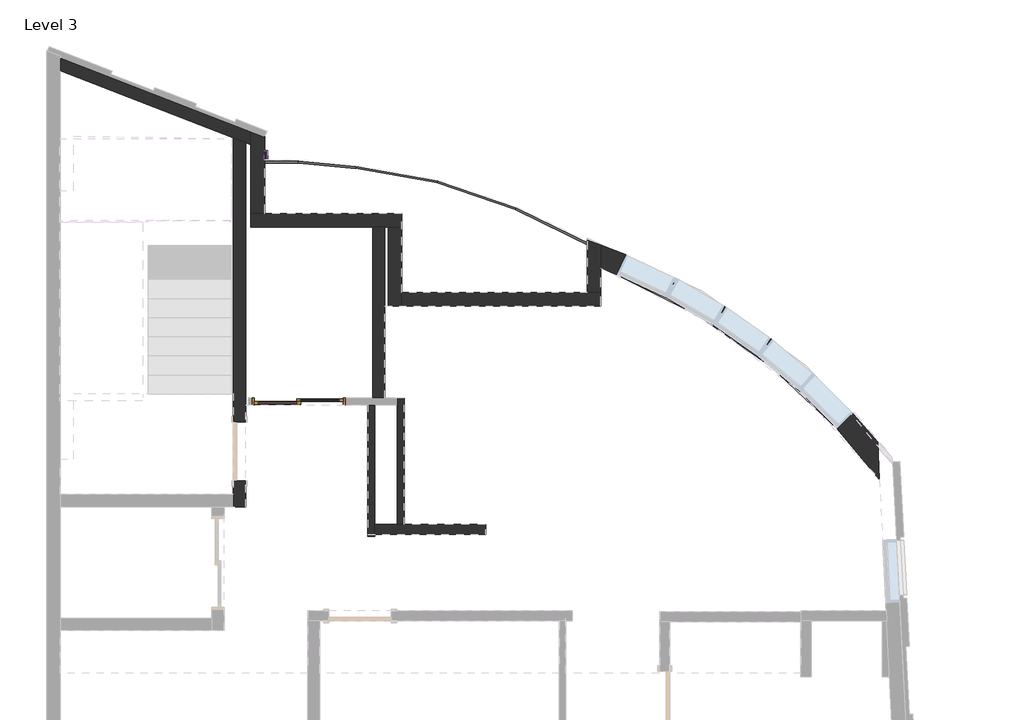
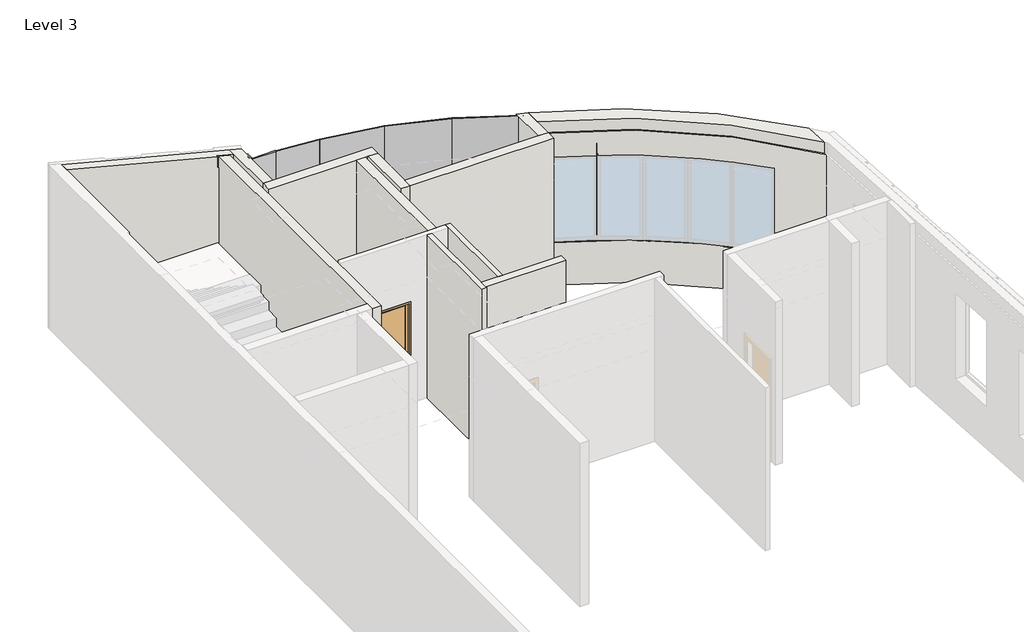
# One storey, part 4 of 5: 13 walls, 5 plates, 2 proxies, 1 door.
"""IFC4 building model written with IfcOpenShell, lengths in millimetres."""

from ifc_helpers import new_model, si_unit, frame, origin, place, context, project, spatial, polyline, circle_curve, outline, extrude, faceted_brep, transform, mapped, element, save
from ifc_brep_helpers import plane_surface, cylinder_surface, revolved_surface, advanced_brep
from components import sliding_door_2_panel_aus_ee5771a8, system_panel_glazed_224d79fb, system_panel_glazed_0fb09b64, system_panel_glazed_2140e779, system_panel_glazed_0c0ff7ba

model = new_model("IFC4")

# Units and contexts
model_context = context("Model", 3, world=origin())
ifc_project = project(units=[si_unit("LENGTHUNIT", "METRE", prefix="MILLI")], contexts=[model_context])

# Site, building, storey
site = spatial("IfcSite", under=ifc_project)
building = spatial("IfcBuilding", under=site)
storey = spatial("IfcBuildingStorey", under=building, Name="Level 3", Elevation=11500.0)

# Proxies
placement = place(None, origin())
element("IfcBuildingElementProxy", 1, Name="Reveal", ObjectType="Reveal", at=placement, inside=storey, context=model_context, shape_type="SweptSolid", body=[
    extrude(outline(polyline([(2938.093022, 13732.1068799), (2988.093022, 13732.1068799), (2988.093022, 13599.3570533), (2938.093022, 13599.3570533), (2938.093022, 13732.1068799)])), frame((0.0, 0.0, 14135.0), z_axis=(0.0, 0.0, 1.0), x_axis=(1.0, 0.0, 0.0)), (0.0, 0.0, 1.0), 50.0),
])
element("IfcBuildingElementProxy", 2, Name="Reveal", ObjectType="Reveal", at=placement, inside=storey, context=model_context, shape_type="SweptSolid", body=[
    extrude(outline(polyline([(2938.093022, 13732.1068799), (2988.093022, 13732.1068799), (2988.093022, 13599.3570533), (2938.093022, 13599.3570533), (2938.093022, 13732.1068799)])), frame((0.0, 0.0, 12375.0), z_axis=(0.0, 0.0, 1.0), x_axis=(1.0, 0.0, 0.0)), (0.0, 0.0, 1.0), 50.0),
])

# Door
sliding_door_2_panel_aus_shape = sliding_door_2_panel_aus_ee5771a8(model_context)
element("IfcDoor", 3, ObjectType="Sliding Door - 2 Panel (AUS) : elavator door", at=placement, inside=storey, context=model_context, shape_type="MappedRepresentation", body=[
    mapped(sliding_door_2_panel_aus_shape, transform((3525.434997, 10056.8748959, 11500.0), x_axis=(-1.0, 0.0, 0.0), y_axis=(0.0, -1.0, 0.0), z_axis=(0.0, 0.0, 1.0))),
])

# Plates
system_panel_glazed_shape = system_panel_glazed_224d79fb(model_context)
element("IfcPlate", 4, ObjectType="System Panel : Glazed", at=placement, inside=storey, context=model_context, shape_type="MappedRepresentation", body=[
    mapped(system_panel_glazed_shape, transform((6054.0124771, 13110.8072352, 11500.0), x_axis=(-0.9455185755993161, 0.32556815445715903, 0.0), y_axis=(-0.32556815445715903, -0.9455185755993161, 0.0), z_axis=(0.0, 0.0, 1.0))),
])
element("IfcPlate", 5, ObjectType="System Panel : Glazed", at=placement, inside=storey, context=model_context, shape_type="MappedRepresentation", body=[
    mapped(system_panel_glazed_shape, transform((4876.5134167, 13415.3291978, 11500.0), x_axis=(-0.9848077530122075, 0.17364817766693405, 0.0), y_axis=(-0.17364817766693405, -0.9848077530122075, 0.0), z_axis=(0.0, 0.0, 1.0))),
])
system_panel_glazed_2_shape = system_panel_glazed_0fb09b64(model_context)
element("IfcPlate", 6, ObjectType="System Panel : Glazed", at=placement, inside=storey, context=model_context, shape_type="MappedRepresentation", body=[
    mapped(system_panel_glazed_2_shape, transform((3856.9795559, 13560.3058198, 11500.0), x_axis=(-0.9956808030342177, 0.09284254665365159, 0.0), y_axis=(-0.09284254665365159, -0.9956808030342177, 0.0), z_axis=(0.0, 0.0, 1.0))),
])
system_panel_glazed_3_shape = system_panel_glazed_2140e779(model_context)
element("IfcPlate", 7, ObjectType="System Panel : Glazed", at=placement, inside=storey, context=model_context, shape_type="MappedRepresentation", body=[
    mapped(system_panel_glazed_3_shape, transform((3189.0685843, 13599.3570533, 11500.0), x_axis=(-1.0, 0.0, 0.0), y_axis=(0.0, -1.0, 0.0), z_axis=(0.0, 0.0, 1.0))),
])
system_panel_glazed_4_shape = system_panel_glazed_0c0ff7ba(model_context)
element("IfcPlate", 8, ObjectType="System Panel : Glazed", at=placement, inside=storey, context=model_context, shape_type="MappedRepresentation", body=[
    mapped(system_panel_glazed_4_shape, transform((7196.5430293, 12636.269013, 11500.0), x_axis=(-0.8987940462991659, 0.43837114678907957, 0.0), y_axis=(-0.43837114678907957, -0.8987940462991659, 0.0), z_axis=(0.0, 0.0, 1.0))),
])

# Walls
element("IfcWall", 9, ObjectType="Generic - 20cm-gypsum-kamposite", at=placement, inside=storey, context=model_context, shape_type="AdvancedBrep", body=[
    advanced_brep(
    [(11908.3121492, 9469.3435074, 15000.0), (7862.3072504, 12351.1222388, 15000.0), (7862.3072504, 12041.0727933, 15000.0), (11933.8152789, 8968.3078963, 15000.0), (7862.3072504, 12351.1222388, 11500.0), (11908.3121492, 9469.3435074, 11500.0), (11936.5482631, 8914.6155682, 11500.0), (7862.3072504, 12008.9189597, 11500.0), (11908.3121492, 9469.3435074, 14245.0), (11544.8906493, 9885.6032931, 14245.0), (11544.8906493, 9885.6032931, 14230.0), (10356.3701317, 10970.353241, 14230.0), (10356.3701317, 10970.353241, 14245.0), (10349.7211648, 10975.4604273, 14245.0), (10349.7211648, 10975.4604273, 14230.0), (9682.5839736, 11443.5981936, 14230.0), (9682.5839736, 11443.5981936, 14245.0), (9675.5092952, 11448.1203824, 14245.0), (9675.5092952, 11448.1203824, 14230.0), (8970.5270255, 11857.0519163, 14230.0), (8970.5270255, 11857.0519163, 14245.0), (8958.907306, 11863.1346618, 14245.0), (8958.907306, 11863.1346618, 14230.0), (8221.1493402, 12209.4555878, 14230.0), (8221.1493402, 12209.4555878, 14245.0), (7862.3072504, 12351.1222388, 14245.0), (7862.3072504, 12351.1222388, 12375.0), (11908.3121492, 9469.3435074, 12375.0), (11908.3121492, 9469.3435074, 12425.0), (11544.8906493, 9885.6032931, 12425.0), (11544.8906493, 9885.6032931, 14195.0), (11908.3121492, 9469.3435074, 14195.0), (8221.1493402, 12209.4555878, 12425.0), (7862.3072504, 12351.1222388, 12425.0), (7862.3072504, 12351.1222388, 14195.0), (8221.1493402, 12209.4555878, 14195.0), (10356.3701317, 10970.353241, 12425.0), (10349.7211648, 10975.4604273, 12425.0), (10349.7211648, 10975.4604273, 14195.0), (10356.3701317, 10970.353241, 14195.0), (9682.5839736, 11443.5981936, 12425.0), (9675.5092952, 11448.1203824, 12425.0), (9675.5092952, 11448.1203824, 14195.0), (9682.5839736, 11443.5981936, 14195.0), (8970.5270255, 11857.0519163, 12425.0), (8958.907306, 11863.1346618, 12425.0), (8958.907306, 11863.1346618, 14195.0), (8970.5270255, 11857.0519163, 14195.0), (11936.5482631, 8914.6155682, 14759.0), (7862.3072504, 12008.9189597, 14759.0), (8085.0423074, 11919.5105106, 12400.0), (8085.0423074, 11919.5105106, 14230.0), (11319.3000133, 9658.2222537, 14230.0), (11319.3000133, 9658.2222537, 12400.0), (11910.4512496, 9427.3186475, 12375.0), (11910.4512496, 9427.3186475, 12425.0), (11910.4512496, 9427.3186475, 14195.0), (11910.4512496, 9427.3186475, 14245.0), (11933.8152789, 8968.3078963, 14759.0), (11527.266896, 9867.8396686, 14230.0), (11527.266896, 9867.8396686, 14195.0), (11527.266896, 9867.8396686, 12425.0), (11527.266896, 9867.8396686, 12400.0), (10335.3479854, 10954.9773917, 14230.0), (10293.8645813, 10895.8599189, 14230.0), (10340.2860207, 10951.1844014, 14230.0), (8210.516289, 12186.8042907, 14230.0), (8948.2742549, 11840.4833647, 14230.0), (8894.6346191, 11726.2163204, 14230.0), (8957.9716481, 11835.4069275, 14230.0), (9662.9539178, 11426.4753937, 14230.0), (9626.6451976, 11363.8805536, 14230.0), (9668.2107942, 11423.1151579, 14230.0), (10293.8645813, 10895.8599189, 12400.0), (10340.2860207, 10951.1844014, 12400.0), (10340.2860207, 10951.1844014, 12425.0), (10340.2860207, 10951.1844014, 14195.0), (10335.3479854, 10954.9773917, 12400.0), (9668.2107942, 11423.1151579, 12400.0), (9626.6451976, 11363.8805536, 12400.0), (9662.9539178, 11426.4753937, 12400.0), (8957.9716481, 11835.4069275, 12400.0), (8894.6346191, 11726.2163204, 12400.0), (8948.2742549, 11840.4833647, 12400.0), (8210.516289, 12186.8042907, 12400.0), (10335.3479854, 10954.9773917, 14195.0), (10335.3479854, 10954.9773917, 12425.0), (9668.2107942, 11423.1151579, 12425.0), (9668.2107942, 11423.1151579, 14195.0), (9662.9539178, 11426.4753937, 14195.0), (9662.9539178, 11426.4753937, 12425.0), (8957.9716481, 11835.4069275, 12425.0), (8957.9716481, 11835.4069275, 14195.0), (8948.2742549, 11840.4833647, 14195.0), (8948.2742549, 11840.4833647, 12425.0), (8210.516289, 12186.8042907, 12425.0), (8210.516289, 12186.8042907, 14195.0), (7862.3072504, 12041.0727933, 14759.0), (7862.3072504, 12324.4469309, 14245.0), (7862.3072504, 12324.4469309, 14195.0), (7862.3072504, 12324.4469309, 12425.0), (7862.3072504, 12324.4469309, 12375.0), (11527.266896, 9867.8396686, 14245.0), (8210.516289, 12186.8042907, 14245.0), (8957.9716481, 11835.4069275, 14245.0), (8948.2742549, 11840.4833647, 14245.0), (9668.2107942, 11423.1151579, 14245.0), (9662.9539178, 11426.4753937, 14245.0), (10340.2860207, 10951.1844014, 14245.0), (10335.3479854, 10954.9773917, 14245.0)],
    [
        (0, 1, circle_curve(frame((4535.6080259, 3399.2748166, 15000.0), z_axis=(0.0, 0.0, 1.0), x_axis=(0.7954529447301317, 0.6060153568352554, 0.0)), 9550.0)),
        (1, 2),
        (2, 3, circle_curve(frame((4535.6080259, 3399.2748166, 15000.0), z_axis=(0.0, 0.0, -1.0), x_axis=(1.0, 0.0, 0.0)), 9260.0)),
        (3, 0),
        (4, 5, circle_curve(frame((4535.6080259, 3399.2748166, 11500.0), z_axis=(0.0, 0.0, -1.0), x_axis=(0.7954529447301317, 0.6060153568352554, 0.0)), 9550.0)),
        (5, 6),
        (6, 7, circle_curve(frame((4535.6080259, 3399.2748166, 11500.0), z_axis=(0.0, 0.0, 1.0), x_axis=(0.7954529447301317, 0.6060153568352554, 0.0)), 9230.0)),
        (7, 4),
        (0, 8),
        (8, 9, circle_curve(frame((4535.6080259, 3399.2748166, 14245.0), z_axis=(0.0, 0.0, 1.0), x_axis=(0.7954529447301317, 0.6060153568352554, 0.0)), 9550.0)),
        (9, 10),
        (10, 11, circle_curve(frame((4535.6080259, 3399.2748166, 14230.0), z_axis=(0.0, 0.0, 1.0), x_axis=(0.7954529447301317, 0.6060153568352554, 0.0)), 9550.0)),
        (11, 12),
        (12, 13, circle_curve(frame((4535.6080259, 3399.2748166, 14245.0), z_axis=(0.0, 0.0, 1.0), x_axis=(0.7954529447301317, 0.6060153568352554, 0.0)), 9550.0)),
        (13, 14),
        (14, 15, circle_curve(frame((4535.6080259, 3399.2748166, 14230.0), z_axis=(0.0, 0.0, 1.0), x_axis=(0.7954529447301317, 0.6060153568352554, 0.0)), 9550.0)),
        (15, 16),
        (16, 17, circle_curve(frame((4535.6080259, 3399.2748166, 14245.0), z_axis=(0.0, 0.0, 1.0), x_axis=(0.7954529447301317, 0.6060153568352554, 0.0)), 9550.0)),
        (17, 18),
        (18, 19, circle_curve(frame((4535.6080259, 3399.2748166, 14230.0), z_axis=(0.0, 0.0, 1.0), x_axis=(0.7954529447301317, 0.6060153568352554, 0.0)), 9550.0)),
        (19, 20),
        (20, 21, circle_curve(frame((4535.6080259, 3399.2748166, 14245.0), z_axis=(0.0, 0.0, 1.0), x_axis=(0.7954529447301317, 0.6060153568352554, 0.0)), 9550.0)),
        (21, 22),
        (22, 23, circle_curve(frame((4535.6080259, 3399.2748166, 14230.0), z_axis=(0.0, 0.0, 1.0), x_axis=(0.7954529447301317, 0.6060153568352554, 0.0)), 9550.0)),
        (23, 24),
        (24, 25, circle_curve(frame((4535.6080259, 3399.2748166, 14245.0), z_axis=(0.0, 0.0, 1.0), x_axis=(0.7954529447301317, 0.6060153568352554, 0.0)), 9550.0)),
        (25, 1),
        (4, 26),
        (26, 27, circle_curve(frame((4535.6080259, 3399.2748166, 12375.0), z_axis=(0.0, 0.0, -1.0), x_axis=(0.7954529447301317, 0.6060153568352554, 0.0)), 9550.0)),
        (27, 5),
        (28, 29, circle_curve(frame((4535.6080259, 3399.2748166, 12425.0), z_axis=(0.0, 0.0, 1.0), x_axis=(0.7954529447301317, 0.6060153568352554, 0.0)), 9550.0)),
        (29, 30),
        (30, 31, circle_curve(frame((4535.6080259, 3399.2748166, 14195.0), z_axis=(0.0, 0.0, -1.0), x_axis=(0.7954529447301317, 0.6060153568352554, 0.0)), 9550.0)),
        (31, 28),
        (32, 33, circle_curve(frame((4535.6080259, 3399.2748166, 12425.0), z_axis=(0.0, 0.0, 1.0), x_axis=(0.7954529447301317, 0.6060153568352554, 0.0)), 9550.0)),
        (33, 34),
        (34, 35, circle_curve(frame((4535.6080259, 3399.2748166, 14195.0), z_axis=(0.0, 0.0, -1.0), x_axis=(0.7954529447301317, 0.6060153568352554, 0.0)), 9550.0)),
        (35, 32),
        (36, 37, circle_curve(frame((4535.6080259, 3399.2748166, 12425.0), z_axis=(0.0, 0.0, 1.0), x_axis=(0.7954529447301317, 0.6060153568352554, 0.0)), 9550.0)),
        (37, 38),
        (38, 39, circle_curve(frame((4535.6080259, 3399.2748166, 14195.0), z_axis=(0.0, 0.0, -1.0), x_axis=(0.7954529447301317, 0.6060153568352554, 0.0)), 9550.0)),
        (39, 36),
        (40, 41, circle_curve(frame((4535.6080259, 3399.2748166, 12425.0), z_axis=(0.0, 0.0, 1.0), x_axis=(0.7954529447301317, 0.6060153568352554, 0.0)), 9550.0)),
        (41, 42),
        (42, 43, circle_curve(frame((4535.6080259, 3399.2748166, 14195.0), z_axis=(0.0, 0.0, -1.0), x_axis=(0.7954529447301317, 0.6060153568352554, 0.0)), 9550.0)),
        (43, 40),
        (44, 45, circle_curve(frame((4535.6080259, 3399.2748166, 12425.0), z_axis=(0.0, 0.0, 1.0), x_axis=(0.7954529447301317, 0.6060153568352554, 0.0)), 9550.0)),
        (45, 46),
        (46, 47, circle_curve(frame((4535.6080259, 3399.2748166, 14195.0), z_axis=(0.0, 0.0, -1.0), x_axis=(0.7954529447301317, 0.6060153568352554, 0.0)), 9550.0)),
        (47, 44),
        (6, 48),
        (48, 49, circle_curve(frame((4535.6080259, 3399.2748166, 14759.0), z_axis=(0.0, 0.0, 1.0), x_axis=(0.7954529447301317, 0.6060153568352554, 0.0)), 9230.0)),
        (49, 7),
        (50, 51),
        (51, 52, circle_curve(frame((4535.6080259, 3399.2748166, 14230.0), z_axis=(0.0, 0.0, -1.0), x_axis=(0.7954529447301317, 0.6060153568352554, 0.0)), 9230.0)),
        (52, 53),
        (53, 50, circle_curve(frame((4535.6080259, 3399.2748166, 12400.0), z_axis=(0.0, 0.0, 1.0), x_axis=(0.7954529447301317, 0.6060153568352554, 0.0)), 9230.0)),
        (27, 54),
        (54, 55),
        (55, 28),
        (31, 56),
        (56, 57),
        (57, 8),
        (3, 58),
        (58, 48),
        (52, 59),
        (59, 60),
        (60, 30),
        (29, 61),
        (61, 62),
        (62, 53),
        (14, 63),
        (63, 64),
        (64, 65),
        (65, 11),
        (10, 59),
        (51, 66),
        (66, 23),
        (22, 67),
        (67, 68),
        (68, 69),
        (69, 19),
        (18, 70),
        (70, 71),
        (71, 72),
        (72, 15),
        (64, 73),
        (73, 74),
        (74, 75),
        (75, 36),
        (39, 76),
        (76, 65),
        (62, 74, circle_curve(frame((4535.6080259, 3399.2748166, 12400.0), z_axis=(0.0, 0.0, 1.0), x_axis=(0.32740306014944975, 0.9448847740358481, 0.0)), 9525.0)),
        (73, 77),
        (77, 78, circle_curve(frame((4535.6080259, 3399.2748166, 12400.0), z_axis=(0.0, 0.0, 1.0), x_axis=(0.32740306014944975, 0.9448847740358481, 0.0)), 9525.0)),
        (78, 79),
        (79, 80),
        (80, 81, circle_curve(frame((4535.6080259, 3399.2748166, 12400.0), z_axis=(0.0, 0.0, 1.0), x_axis=(0.32740306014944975, 0.9448847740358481, 0.0)), 9525.0)),
        (81, 82),
        (82, 83),
        (83, 84, circle_curve(frame((4535.6080259, 3399.2748166, 12400.0), z_axis=(0.0, 0.0, 1.0), x_axis=(0.32740306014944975, 0.9448847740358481, 0.0)), 9525.0)),
        (84, 50),
        (63, 85),
        (85, 38),
        (37, 86),
        (86, 77),
        (71, 79),
        (78, 87),
        (87, 40),
        (43, 88),
        (88, 72),
        (70, 89),
        (89, 42),
        (41, 90),
        (90, 80),
        (68, 82),
        (81, 91),
        (91, 44),
        (47, 92),
        (92, 69),
        (67, 93),
        (93, 46),
        (45, 94),
        (94, 83),
        (84, 95),
        (95, 32),
        (35, 96),
        (96, 66),
        (49, 97),
        (97, 2),
        (25, 98),
        (98, 99),
        (99, 34),
        (33, 100),
        (100, 101),
        (101, 26),
        (55, 61, circle_curve(frame((4535.6080259, 3399.2748166, 12425.0), z_axis=(0.0, 0.0, 1.0), x_axis=(0.32740306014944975, 0.9448847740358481, 0.0)), 9525.0)),
        (95, 100, circle_curve(frame((4535.6080259, 3399.2748166, 12425.0), z_axis=(0.0, 0.0, 1.0), x_axis=(0.32740306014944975, 0.9448847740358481, 0.0)), 9525.0)),
        (75, 86, circle_curve(frame((4535.6080259, 3399.2748166, 12425.0), z_axis=(0.0, 0.0, 1.0), x_axis=(0.32740306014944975, 0.9448847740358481, 0.0)), 9525.0)),
        (87, 90, circle_curve(frame((4535.6080259, 3399.2748166, 12425.0), z_axis=(0.0, 0.0, 1.0), x_axis=(0.32740306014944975, 0.9448847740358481, 0.0)), 9525.0)),
        (91, 94, circle_curve(frame((4535.6080259, 3399.2748166, 12425.0), z_axis=(0.0, 0.0, 1.0), x_axis=(0.32740306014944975, 0.9448847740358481, 0.0)), 9525.0)),
        (101, 54, circle_curve(frame((4535.6080259, 3399.2748166, 12375.0), z_axis=(0.0, 0.0, -1.0), x_axis=(0.32740306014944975, 0.9448847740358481, 0.0)), 9525.0)),
        (57, 102, circle_curve(frame((4535.6080259, 3399.2748166, 14245.0), z_axis=(0.0, 0.0, 1.0), x_axis=(0.7339562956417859, 0.6791966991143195, 0.0)), 9525.0)),
        (102, 9),
        (60, 56, circle_curve(frame((4535.6080259, 3399.2748166, 14195.0), z_axis=(0.0, 0.0, -1.0), x_axis=(0.7339562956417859, 0.6791966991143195, 0.0)), 9525.0)),
        (59, 102),
        (24, 103),
        (103, 98, circle_curve(frame((4535.6080259, 3399.2748166, 14245.0), z_axis=(0.0, 0.0, 1.0), x_axis=(0.32740306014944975, 0.9448847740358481, 0.0)), 9525.0)),
        (99, 96, circle_curve(frame((4535.6080259, 3399.2748166, 14195.0), z_axis=(0.0, 0.0, -1.0), x_axis=(0.32740306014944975, 0.9448847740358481, 0.0)), 9525.0)),
        (103, 66),
        (104, 105, circle_curve(frame((4535.6080259, 3399.2748166, 14245.0), z_axis=(0.0, 0.0, 1.0), x_axis=(0.4631726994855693, 0.8862680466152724, 0.0)), 9525.0)),
        (105, 21),
        (20, 104),
        (93, 92, circle_curve(frame((4535.6080259, 3399.2748166, 14195.0), z_axis=(0.0, 0.0, -1.0), x_axis=(0.4631726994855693, 0.8862680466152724, 0.0)), 9525.0)),
        (104, 69),
        (67, 105),
        (106, 107, circle_curve(frame((4535.6080259, 3399.2748166, 14245.0), z_axis=(0.0, 0.0, 1.0), x_axis=(0.5382095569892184, 0.8428110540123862, 0.0)), 9525.0)),
        (107, 17),
        (16, 106),
        (89, 88, circle_curve(frame((4535.6080259, 3399.2748166, 14195.0), z_axis=(0.0, 0.0, -1.0), x_axis=(0.5382095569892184, 0.8428110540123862, 0.0)), 9525.0)),
        (106, 72),
        (70, 107),
        (108, 109, circle_curve(frame((4535.6080259, 3399.2748166, 14245.0), z_axis=(0.0, 0.0, 1.0), x_axis=(0.6088076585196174, 0.7933178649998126, 0.0)), 9525.0)),
        (109, 13),
        (12, 108),
        (85, 76, circle_curve(frame((4535.6080259, 3399.2748166, 14195.0), z_axis=(0.0, 0.0, -1.0), x_axis=(0.6088076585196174, 0.7933178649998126, 0.0)), 9525.0)),
        (108, 65),
        (63, 109),
        (58, 97, circle_curve(frame((4535.6080259, 3399.2748166, 14759.0), z_axis=(0.0, 0.0, 1.0), x_axis=(1.0, 0.0, 0.0)), 9260.0)),
    ],
    [
        plane_surface(frame((12132.1836481, 9186.7214744, 15000.0), z_axis=(0.0, 0.0, 1.0), x_axis=(-0.6060153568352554, 0.7954529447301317, 0.0))),
        plane_surface(frame((12132.1836481, 9186.7214744, 11500.0), z_axis=(0.0, 0.0, -1.0), x_axis=(0.6060153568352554, -0.7954529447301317, 0.0))),
        cylinder_surface(frame((4535.6080259, 3399.2748166, 11500.0), z_axis=(0.0, 0.0, 1.0), x_axis=(0.7954529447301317, 0.6060153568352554, 0.0)), 9550.0),
        revolved_surface(polyline([(11877.638705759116, 8992.796560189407, 11500.0), (11877.638705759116, 8992.796560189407, 14759.0)]), (4535.6080259, 3399.2748166, 11500.0), (0.0, 0.0, -1.0)),
        plane_surface(frame((11929.5360205, 9052.3783941, 11500.0), z_axis=(0.9987070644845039, 0.05083502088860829, 0.0), x_axis=(0.05083502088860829, -0.9987070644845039, 0.0))),
        plane_surface(frame((10471.5277129, 8803.721596, 12400.0), z_axis=(-0.7098961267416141, 0.7043063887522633, 0.0), x_axis=(0.7043063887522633, 0.7098961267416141, 0.0))),
        plane_surface(frame((10001.1116007, 9279.0246578, 14230.0), z_axis=(0.0, 0.0, -1.0), x_axis=(0.6427769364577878, 0.7660533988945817, 0.0))),
        plane_surface(frame((9376.7780806, 9802.887861, 14230.0), z_axis=(0.7660533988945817, -0.6427769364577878, 0.0), x_axis=(0.6427769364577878, 0.7660533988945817, 0.0))),
        plane_surface(frame((9376.7780806, 9802.887861, 12400.0), z_axis=(0.0, 0.0, 1.0), x_axis=(0.6427769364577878, 0.7660533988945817, 0.0))),
        plane_surface(frame((9474.332262, 9727.9548086, 12400.0), z_axis=(-0.8185732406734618, 0.5744021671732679, 0.0), x_axis=(0.5744021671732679, 0.8185732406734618, 0.0))),
        plane_surface(frame((8807.1950709, 10196.0925748, 14230.0), z_axis=(0.8185732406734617, -0.574402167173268, 0.0), x_axis=(0.574402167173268, 0.8185732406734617, 0.0))),
        plane_surface(frame((8910.8324147, 10129.8467885, 12400.0), z_axis=(-0.8650089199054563, 0.5017564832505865, 0.0), x_axis=(0.5017564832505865, 0.8650089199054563, 0.0))),
        plane_surface(frame((8205.850145, 10538.7783223, 14230.0), z_axis=(0.8650089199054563, -0.5017564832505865, 0.0), x_axis=(0.5017564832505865, 0.8650089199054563, 0.0))),
        plane_surface(frame((8311.308421, 10483.5725268, 12400.0), z_axis=(-0.9052244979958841, 0.42493365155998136, 0.0), x_axis=(0.42493365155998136, 0.9052244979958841, 0.0))),
        plane_surface(frame((7573.5504552, 10829.8934528, 14230.0), z_axis=(0.9052244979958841, -0.42493365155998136, 0.0), x_axis=(0.42493365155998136, 0.9052244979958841, 0.0))),
        plane_surface(frame((7862.3072504, 12316.4556234, 11500.0), z_axis=(-1.0, 0.0, 0.0), x_axis=(0.0, 1.0, 0.0))),
        plane_surface(frame((4535.6080259, 3399.2748166, 12425.0), z_axis=(0.0, 0.0, -1.0), x_axis=(0.32740306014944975, 0.9448847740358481, 0.0))),
        plane_surface(frame((4535.6080259, 3399.2748166, 12375.0), z_axis=(0.0, 0.0, 1.0), x_axis=(0.32740306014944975, 0.9448847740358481, 0.0))),
        cylinder_surface(frame((4535.6080259, 3399.2748166, 12400.0), z_axis=(0.0, 0.0, -1.0), x_axis=(0.32740306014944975, 0.9448847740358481, 0.0)), 9525.0),
        plane_surface(frame((4535.6080259, 3399.2748166, 14245.0), z_axis=(0.0, 0.0, -1.0), x_axis=(0.7339562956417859, 0.6791966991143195, 0.0))),
        plane_surface(frame((4535.6080259, 3399.2748166, 14195.0), z_axis=(0.0, 0.0, 1.0), x_axis=(0.7339562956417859, 0.6791966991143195, 0.0))),
        cylinder_surface(frame((4535.6080259, 3399.2748166, 14220.0), z_axis=(0.0, 0.0, -1.0), x_axis=(0.7339562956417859, 0.6791966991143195, 0.0)), 9525.0),
        plane_surface(frame((4535.6080259, 3399.2748166, 14245.0), z_axis=(0.0, 0.0, -1.0), x_axis=(0.32740306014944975, 0.9448847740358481, 0.0))),
        plane_surface(frame((4535.6080259, 3399.2748166, 14195.0), z_axis=(0.0, 0.0, 1.0), x_axis=(0.32740306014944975, 0.9448847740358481, 0.0))),
        cylinder_surface(frame((4535.6080259, 3399.2748166, 14220.0), z_axis=(0.0, 0.0, -1.0), x_axis=(0.32740306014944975, 0.9448847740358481, 0.0)), 9525.0),
        plane_surface(frame((7573.5504552, 10829.8934528, 14230.0), z_axis=(-0.9052244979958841, 0.42493365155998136, 0.0), x_axis=(0.42493365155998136, 0.9052244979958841, 0.0))),
        plane_surface(frame((4535.6080259, 3399.2748166, 14245.0), z_axis=(0.0, 0.0, -1.0), x_axis=(0.4631726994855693, 0.8862680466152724, 0.0))),
        plane_surface(frame((4535.6080259, 3399.2748166, 14195.0), z_axis=(0.0, 0.0, 1.0), x_axis=(0.4631726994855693, 0.8862680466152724, 0.0))),
        cylinder_surface(frame((4535.6080259, 3399.2748166, 14220.0), z_axis=(0.0, 0.0, -1.0), x_axis=(0.4631726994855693, 0.8862680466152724, 0.0)), 9525.0),
        plane_surface(frame((8311.308421, 10483.5725268, 12400.0), z_axis=(0.9052244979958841, -0.42493365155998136, 0.0), x_axis=(0.42493365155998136, 0.9052244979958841, 0.0))),
        plane_surface(frame((8205.850145, 10538.7783223, 14230.0), z_axis=(-0.8650089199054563, 0.5017564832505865, 0.0), x_axis=(0.5017564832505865, 0.8650089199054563, 0.0))),
        plane_surface(frame((4535.6080259, 3399.2748166, 14245.0), z_axis=(0.0, 0.0, -1.0), x_axis=(0.5382095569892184, 0.8428110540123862, 0.0))),
        plane_surface(frame((4535.6080259, 3399.2748166, 14195.0), z_axis=(0.0, 0.0, 1.0), x_axis=(0.5382095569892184, 0.8428110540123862, 0.0))),
        cylinder_surface(frame((4535.6080259, 3399.2748166, 14220.0), z_axis=(0.0, 0.0, -1.0), x_axis=(0.5382095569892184, 0.8428110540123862, 0.0)), 9525.0),
        plane_surface(frame((8910.8324147, 10129.8467885, 12400.0), z_axis=(0.8650089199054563, -0.5017564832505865, 0.0), x_axis=(0.5017564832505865, 0.8650089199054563, 0.0))),
        plane_surface(frame((8807.1950709, 10196.0925748, 14230.0), z_axis=(-0.8185732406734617, 0.574402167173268, 0.0), x_axis=(0.574402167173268, 0.8185732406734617, 0.0))),
        plane_surface(frame((4535.6080259, 3399.2748166, 14245.0), z_axis=(0.0, 0.0, -1.0), x_axis=(0.6088076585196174, 0.7933178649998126, 0.0))),
        plane_surface(frame((4535.6080259, 3399.2748166, 14195.0), z_axis=(0.0, 0.0, 1.0), x_axis=(0.6088076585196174, 0.7933178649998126, 0.0))),
        cylinder_surface(frame((4535.6080259, 3399.2748166, 14220.0), z_axis=(0.0, 0.0, -1.0), x_axis=(0.6088076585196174, 0.7933178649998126, 0.0)), 9525.0),
        plane_surface(frame((9474.332262, 9727.9548086, 12400.0), z_axis=(0.8185732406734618, -0.5744021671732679, 0.0), x_axis=(0.5744021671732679, 0.8185732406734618, 0.0))),
        plane_surface(frame((9376.7780806, 9802.887861, 14230.0), z_axis=(-0.7660533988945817, 0.6427769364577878, 0.0), x_axis=(0.6427769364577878, 0.7660533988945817, 0.0))),
        plane_surface(frame((10471.5277129, 8803.721596, 12400.0), z_axis=(0.7098961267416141, -0.7043063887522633, 0.0), x_axis=(0.7043063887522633, 0.7098961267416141, 0.0))),
        plane_surface(frame((-80.0421304, 14944.8648867, 14759.0), z_axis=(0.0, 0.0, 1.0), x_axis=(0.9323005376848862, -0.36168454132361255, 0.0))),
        revolved_surface(polyline([(13795.608025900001, 3399.2748166, 14759.0), (13795.608025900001, 3399.2748166, 15000.0)]), (4535.6080259, 3399.2748166, 15000.0), (0.0, 0.0, -1.0)),
    ],
    [
        (0, [[1, 2, 3, 4]]),
        (1, [[5, 6, 7, 8]]),
        (2, [[-1, 9, 10, 11, 12, 13, 14, 15, 16, 17, 18, 19, 20, 21, 22, 23, 24, 25, 26, 27]]),
        (2, [[-5, 28, 29, 30]]),
        (2, [[31, 32, 33, 34]]),
        (2, [[35, 36, 37, 38]]),
        (2, [[39, 40, 41, 42]]),
        (2, [[43, 44, 45, 46]]),
        (2, [[47, 48, 49, 50]]),
        (3, [[-7, 51, 52, 53], [54, 55, 56, 57]]),
        (4, [[-6, -30, 58, 59, 60, -34, 61, 62, 63, -9, -4, 64, 65, -51]]),
        (5, [[-56, 66, 67, 68, -32, 69, 70, 71]]),
        (6, [[-16, 72, 73, 74, 75, -12, 76, -66, -55, 77, 78, -24, 79, 80, 81, 82, -20, 83, 84, 85, 86]]),
        (7, [[87, 88, 89, 90, -42, 91, 92, -74]]),
        (8, [[-57, -71, 93, -88, 94, 95, 96, 97, 98, 99, 100, 101, 102]]),
        (9, [[-87, -73, 103, 104, -40, 105, 106, -94]]),
        (10, [[107, -96, 108, 109, -46, 110, 111, -85]]),
        (11, [[-107, -84, 112, 113, -44, 114, 115, -97]]),
        (12, [[116, -99, 117, 118, -50, 119, 120, -81]]),
        (13, [[-116, -80, 121, 122, -48, 123, 124, -100]]),
        (14, [[-54, -102, 125, 126, -38, 127, 128, -77]]),
        (15, [[-8, -53, 129, 130, -2, -27, 131, 132, 133, -36, 134, 135, 136, -28]]),
        (16, [[137, -69, -31, -60]]),
        (16, [[-134, -35, -126, 138]]),
        (16, [[139, -105, -39, -90]]),
        (16, [[140, -114, -43, -109]]),
        (16, [[141, -123, -47, -118]]),
        (17, [[142, -58, -29, -136]]),
        (18, [[-137, -59, -142, -135, -138, -125, -101, -124, -141, -117, -98, -115, -140, -108, -95, -106, -139, -89, -93, -70]]),
        (19, [[143, 144, -10, -63]]),
        (20, [[145, -61, -33, -68]]),
        (21, [[-143, -62, -145, -67, 146]]),
        (22, [[147, 148, -131, -26]]),
        (23, [[149, -127, -37, -133]]),
        (24, [[150, -128, -149, -132, -148]]),
        (25, [[-150, -147, -25, -78]]),
        (26, [[151, 152, -22, 153]]),
        (27, [[154, -119, -49, -122]]),
        (28, [[-151, 155, -120, -154, -121, 156]]),
        (29, [[-156, -79, -23, -152]]),
        (30, [[-155, -153, -21, -82]]),
        (31, [[157, 158, -18, 159]]),
        (32, [[160, -110, -45, -113]]),
        (33, [[-157, 161, -111, -160, -112, 162]]),
        (34, [[-162, -83, -19, -158]]),
        (35, [[-161, -159, -17, -86]]),
        (36, [[163, 164, -14, 165]]),
        (37, [[166, -91, -41, -104]]),
        (38, [[-163, 167, -92, -166, -103, 168]]),
        (39, [[-168, -72, -15, -164]]),
        (40, [[-167, -165, -13, -75]]),
        (41, [[-146, -76, -11, -144]]),
        (42, [[169, -129, -52, -65]]),
        (43, [[-169, -64, -3, -130]]),
    ],
),
])
element("IfcWall", 10, ObjectType="Generic - 15cm-gypsu-2boith", at=placement, inside=storey, context=model_context, shape_type="Brep", body=[
    faceted_brep([(4549.2779066, 8112.262158, 11500.0), (6174.9402277, 8112.262158, 11500.0), (6174.9402277, 8112.262158, 15000.0), (4549.2779066, 8112.262158, 15000.0), (4549.2779066, 8262.262158, 11500.0), (4549.2779066, 8262.262158, 15000.0), (4879.9402277, 8262.262158, 15000.0), (4979.9402277, 8262.262158, 15000.0), (6174.9402277, 8262.262158, 15000.0), (6174.9402277, 8262.262158, 11500.0), (4979.9402277, 8262.262158, 11500.0), (4879.9402277, 8262.262158, 11500.0)], [[[0, 1, 2, 3]], [[4, 5, 6, 7, 8, 9, 10, 11]], [[1, 0, 4, 11, 10, 9]], [[2, 1, 9, 8]], [[3, 2, 8, 7, 6, 5]], [[0, 3, 5, 4]]]),
])
element("IfcWall", 11, ObjectType="Generic - 10cm-gypsu-2boith", at=placement, inside=storey, context=model_context, shape_type="Brep", body=[
    faceted_brep([(4549.2779066, 8082.262158, 11500.0), (4549.2779066, 8112.262158, 11500.0), (4549.2779066, 8262.262158, 11500.0), (4549.2779066, 10006.8748959, 11500.0), (4549.2779066, 10006.8748959, 15000.0), (4549.2779066, 8262.262158, 15000.0), (4549.2779066, 8112.262158, 15000.0), (4549.2779066, 8082.262158, 15000.0), (4449.2779066, 8082.262158, 11500.0), (4449.2779066, 8082.262158, 15000.0), (4449.2779066, 10006.8748959, 15000.0), (4449.2779066, 10006.8748959, 11500.0)], [[[0, 1, 2, 3, 4, 5, 6, 7]], [[8, 9, 10, 11]], [[3, 2, 1, 0, 8, 11]], [[7, 6, 5, 4, 10, 9]], [[0, 7, 9, 8]], [[4, 3, 11, 10]]]),
])
element("IfcWall", 12, ObjectType="Generic - 10cm-gypsu-2boith", at=placement, inside=storey, context=model_context, shape_type="Brep", body=[
    faceted_brep([(4879.9402277, 10106.8748959, 11500.0), (4879.9402277, 10006.8748959, 11500.0), (4879.9402277, 8262.262158, 11500.0), (4879.9402277, 8262.262158, 15000.0), (4879.9402277, 10006.8748959, 15000.0), (4879.9402277, 10106.8748959, 15000.0), (4979.9402277, 10106.8748959, 11500.0), (4979.9402277, 10106.8748959, 15000.0), (4979.9402277, 8262.262158, 15000.0), (4979.9402277, 8262.262158, 11500.0)], [[[0, 1, 2, 3, 4, 5]], [[6, 7, 8, 9]], [[2, 1, 0, 6, 9]], [[5, 4, 3, 8, 7]], [[3, 2, 9, 8]], [[0, 5, 7, 6]]]),
])
element("IfcWall", 13, ObjectType="Generic - 18cm-gypsu-2boith 2", at=placement, inside=storey, context=model_context, shape_type="Brep", body=[
    faceted_brep([(2661.8607589, 8516.8748746, 11500.0), (2661.8607589, 8896.8748746, 11500.0), (2661.8607589, 8896.8748746, 13532.0), (2661.8607589, 9760.8748746, 13532.0), (2661.8607589, 9760.8748746, 11500.0), (2661.8607589, 13848.9694672, 11500.0), (2661.8607589, 13848.9694672, 15000.0), (2661.8607589, 8516.8748746, 15000.0), (2481.8607589, 8896.8748746, 13532.0), (2481.8607589, 8896.8748746, 11500.0), (2481.8607589, 8696.8748746, 11500.0), (2481.8607589, 8516.8748746, 11500.0), (2481.8607589, 8516.8748746, 15000.0), (2481.8607589, 8696.8748746, 15000.0), (2481.8607589, 13918.8001868, 15000.0), (2481.8607589, 13918.8001868, 11500.0), (2481.8607589, 9760.8748746, 11500.0), (2481.8607589, 9760.8748746, 13532.0)], [[[0, 1, 2, 3, 4, 5, 6, 7]], [[8, 9, 10, 11, 12, 13, 14, 15, 16, 17]], [[16, 15, 5, 4]], [[11, 10, 9, 1, 0]], [[7, 6, 14, 13, 12]], [[6, 5, 15, 14]], [[0, 7, 12, 11]], [[2, 1, 9, 8]], [[3, 2, 8, 17]], [[4, 3, 17, 16]]]),
])
element("IfcWall", 14, ObjectType="Generic - 18cm-gypsu-2boith 2", at=placement, inside=storey, context=model_context, shape_type="SweptSolid", body=[
    extrude(outline(polyline([(4519.9587688, 10106.8748959), (4519.9587688, 12611.9409286), (4699.9587688, 12611.9409286), (4699.9587688, 10106.8748959), (4519.9587688, 10106.8748959)])), frame((0.0, 0.0, 11500.0), z_axis=(0.0, 0.0, 1.0), x_axis=(1.0, 0.0, 0.0)), (0.0, 0.0, 1.0), 3500.0),
])
element("IfcWall", 15, ObjectType="kamposite5cm", at=placement, inside=storey, context=model_context, shape_type="Brep", body=[
    faceted_brep([(2913.093022, 13751.504302, 11500.0), (2913.093022, 13599.3570533, 11500.0), (2913.093022, 13599.3570533, 15000.0), (2913.093022, 13751.504302, 15000.0), (2963.093022, 13599.3570533, 11500.0), (2963.093022, 13732.1068799, 11500.0), (2963.093022, 13732.1068799, 12375.0), (2963.093022, 13599.3570533, 12375.0), (2963.093022, 13732.1068799, 15000.0), (2963.093022, 13599.3570533, 15000.0), (2963.093022, 13599.3570533, 14185.0), (2963.093022, 13732.1068799, 14185.0), (2963.093022, 13732.1068799, 14135.0), (2963.093022, 13599.3570533, 14135.0), (2963.093022, 13599.3570533, 12425.0), (2963.093022, 13732.1068799, 12425.0), (2938.093022, 13599.3570533, 12375.0), (2938.093022, 13599.3570533, 12425.0), (2938.093022, 13599.3570533, 14135.0), (2938.093022, 13599.3570533, 14185.0), (2938.093022, 13732.1068799, 14185.0), (2938.093022, 13732.1068799, 14135.0), (2938.093022, 13732.1068799, 12425.0), (2938.093022, 13732.1068799, 12375.0)], [[[0, 1, 2, 3]], [[4, 5, 6, 7]], [[8, 9, 10, 11]], [[12, 13, 14, 15]], [[1, 0, 5, 4]], [[2, 1, 4, 7, 16, 17, 14, 13, 18, 19, 10, 9]], [[3, 2, 9, 8]], [[20, 21, 12, 11]], [[19, 20, 11, 10]], [[21, 18, 13, 12]], [[21, 20, 19, 18]], [[22, 23, 6, 15]], [[17, 22, 15, 14]], [[23, 16, 7, 6]], [[23, 22, 17, 16]], [[0, 3, 8, 11, 12, 15, 6, 5]]]),
])
element("IfcWall", 16, ObjectType="Generic - 20cm-gypsum", at=placement, inside=storey, context=model_context, shape_type="Brep", body=[
    faceted_brep([(4949.6116933, 11454.5991251, 11500.0), (7862.3072504, 11454.5991251, 11500.0), (7862.3072504, 11454.5991251, 15000.0), (4949.6116933, 11454.5991251, 15000.0), (4949.6116933, 11654.5991251, 11500.0), (4949.6116933, 11654.5991251, 15000.0), (7662.3072504, 11654.5991251, 15000.0), (7862.3072504, 11654.5991251, 15000.0), (7862.3072504, 11654.5991251, 11500.0), (7662.3072504, 11654.5991251, 11500.0)], [[[0, 1, 2, 3]], [[4, 5, 6, 7, 8, 9]], [[1, 0, 4, 9, 8]], [[3, 2, 7, 6, 5]], [[2, 1, 8, 7]], [[0, 3, 5, 4]]]),
])
element("IfcWall", 17, ObjectType="Generic - 20cm-gypsum", at=placement, inside=storey, context=model_context, shape_type="AdvancedBrep", body=[
    advanced_brep(
    [(7862.3072504, 11654.5991251, 11500.0), (7862.3072504, 12008.9189597, 11500.0), (7862.3072504, 12351.1222388, 11500.0), (7862.3072504, 12351.1222388, 12375.0), (7862.3072504, 12324.4469309, 12375.0), (7862.3072504, 12324.4469309, 12425.0), (7862.3072504, 12351.1222388, 12425.0), (7862.3072504, 12351.1222388, 14195.0), (7862.3072504, 12324.4469309, 14195.0), (7862.3072504, 12324.4469309, 14245.0), (7862.3072504, 12351.1222388, 14245.0), (7862.3072504, 12351.1222388, 15000.0), (7862.3072504, 12041.0727933, 15000.0), (7862.3072504, 11654.5991251, 15000.0), (7662.3072504, 12422.9244086, 11500.0), (7662.3072504, 11654.5991251, 11500.0), (7662.3072504, 11654.5991251, 15000.0), (7662.3072504, 12422.9244086, 15000.0), (7662.3072504, 12422.9244086, 14245.0), (7662.3072504, 12396.4619859, 14245.0), (7662.3072504, 12396.4619859, 14195.0), (7662.3072504, 12422.9244086, 14195.0), (7662.3072504, 12422.9244086, 12425.0), (7662.3072504, 12396.4619859, 12425.0), (7662.3072504, 12396.4619859, 12375.0), (7662.3072504, 12422.9244086, 12375.0)],
    [
        (0, 1),
        (1, 2),
        (2, 3),
        (3, 4),
        (4, 5),
        (5, 6),
        (6, 7),
        (7, 8),
        (8, 9),
        (9, 10),
        (10, 11),
        (11, 12),
        (12, 13),
        (13, 0),
        (14, 15),
        (15, 16),
        (16, 17),
        (17, 18),
        (18, 19),
        (19, 20),
        (20, 21),
        (21, 22),
        (22, 23),
        (23, 24),
        (24, 25),
        (25, 14),
        (0, 15),
        (14, 2, circle_curve(frame((4535.6080259, 3399.2748166, 11500.0), z_axis=(0.0, 0.0, -1.0), x_axis=(0.7954529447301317, 0.6060153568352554, 0.0)), 9550.0)),
        (11, 17, circle_curve(frame((4535.6080259, 3399.2748166, 15000.0), z_axis=(0.0, 0.0, 1.0), x_axis=(0.7954529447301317, 0.6060153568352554, 0.0)), 9550.0)),
        (16, 13),
        (25, 3, circle_curve(frame((4535.6080259, 3399.2748166, 12375.0), z_axis=(0.0, 0.0, -1.0), x_axis=(0.7954529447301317, 0.6060153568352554, 0.0)), 9550.0)),
        (10, 18, circle_curve(frame((4535.6080259, 3399.2748166, 14245.0), z_axis=(0.0, 0.0, 1.0), x_axis=(0.7954529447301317, 0.6060153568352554, 0.0)), 9550.0)),
        (6, 22, circle_curve(frame((4535.6080259, 3399.2748166, 12425.0), z_axis=(0.0, 0.0, 1.0), x_axis=(0.7954529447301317, 0.6060153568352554, 0.0)), 9550.0)),
        (21, 7, circle_curve(frame((4535.6080259, 3399.2748166, 14195.0), z_axis=(0.0, 0.0, -1.0), x_axis=(0.7954529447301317, 0.6060153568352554, 0.0)), 9550.0)),
        (5, 23, circle_curve(frame((4535.6080259, 3399.2748166, 12425.0), z_axis=(0.0, 0.0, 1.0), x_axis=(0.32740306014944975, 0.9448847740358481, 0.0)), 9525.0)),
        (24, 4, circle_curve(frame((4535.6080259, 3399.2748166, 12375.0), z_axis=(0.0, 0.0, -1.0), x_axis=(0.32740306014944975, 0.9448847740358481, 0.0)), 9525.0)),
        (9, 19, circle_curve(frame((4535.6080259, 3399.2748166, 14245.0), z_axis=(0.0, 0.0, 1.0), x_axis=(0.32740306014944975, 0.9448847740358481, 0.0)), 9525.0)),
        (20, 8, circle_curve(frame((4535.6080259, 3399.2748166, 14195.0), z_axis=(0.0, 0.0, -1.0), x_axis=(0.32740306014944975, 0.9448847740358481, 0.0)), 9525.0)),
    ],
    [
        plane_surface(frame((7862.3072504, 12316.4556234, 11500.0), z_axis=(1.0, 0.0, 0.0), x_axis=(0.0, 1.0, 0.0))),
        plane_surface(frame((7662.3072504, 12316.4556234, 11500.0), z_axis=(-1.0, 0.0, 0.0), x_axis=(0.0, -1.0, 0.0))),
        plane_surface(frame((7862.3072504, 11554.5991251, 11500.0), z_axis=(0.0, 0.0, -1.0), x_axis=(-1.0, 0.0, 0.0))),
        plane_surface(frame((7862.3072504, 12217.4669281, 15000.0), z_axis=(0.0, 0.0, 1.0), x_axis=(-1.0, 0.0, 0.0))),
        plane_surface(frame((7749.728271, 11654.5991251, 11500.0), z_axis=(0.0, -1.0, 0.0), x_axis=(-1.0, 0.0, 0.0))),
        cylinder_surface(frame((4535.6080259, 3399.2748166, 11500.0), z_axis=(0.0, 0.0, 1.0), x_axis=(0.7954529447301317, 0.6060153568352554, 0.0)), 9550.0),
        plane_surface(frame((4535.6080259, 3399.2748166, 12425.0), z_axis=(0.0, 0.0, -1.0), x_axis=(0.32740306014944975, 0.9448847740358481, 0.0))),
        plane_surface(frame((4535.6080259, 3399.2748166, 12375.0), z_axis=(0.0, 0.0, 1.0), x_axis=(0.32740306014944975, 0.9448847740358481, 0.0))),
        cylinder_surface(frame((4535.6080259, 3399.2748166, 12400.0), z_axis=(0.0, 0.0, -1.0), x_axis=(0.32740306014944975, 0.9448847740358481, 0.0)), 9525.0),
        plane_surface(frame((4535.6080259, 3399.2748166, 14245.0), z_axis=(0.0, 0.0, -1.0), x_axis=(0.32740306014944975, 0.9448847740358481, 0.0))),
        plane_surface(frame((4535.6080259, 3399.2748166, 14195.0), z_axis=(0.0, 0.0, 1.0), x_axis=(0.32740306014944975, 0.9448847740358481, 0.0))),
        cylinder_surface(frame((4535.6080259, 3399.2748166, 14220.0), z_axis=(0.0, 0.0, -1.0), x_axis=(0.32740306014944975, 0.9448847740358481, 0.0)), 9525.0),
    ],
    [
        (0, [[1, 2, 3, 4, 5, 6, 7, 8, 9, 10, 11, 12, 13, 14]]),
        (1, [[15, 16, 17, 18, 19, 20, 21, 22, 23, 24, 25, 26]]),
        (2, [[-2, -1, 27, -15, 28]]),
        (3, [[-13, -12, 29, -17, 30]]),
        (4, [[-14, -30, -16, -27]]),
        (5, [[-28, -26, 31, -3]]),
        (5, [[-29, -11, 32, -18]]),
        (5, [[33, -22, 34, -7]]),
        (6, [[35, -23, -33, -6]]),
        (7, [[36, -4, -31, -25]]),
        (8, [[-35, -5, -36, -24]]),
        (9, [[37, -19, -32, -10]]),
        (10, [[38, -8, -34, -21]]),
        (11, [[-37, -9, -38, -20]]),
    ],
),
])
element("IfcWall", 18, ObjectType="Generic - 20cm-gypsum", at=placement, inside=storey, context=model_context, shape_type="Brep", body=[
    faceted_brep([(-50.0421304, 14901.0479686, 11500.0), (2481.8607589, 13918.8001868, 11500.0), (2661.8607589, 13848.9694672, 11500.0), (2739.9587442, 13818.6714754, 11500.0), (2739.9587442, 13818.6714754, 14759.0), (2454.9743495, 13929.2307274, 14759.0), (2454.9743495, 13929.2307274, 15000.0), (-50.0421304, 14901.0479686, 15000.0), (2739.9587442, 14033.1945738, 11500.0), (-50.0421304, 15115.5710671, 11500.0), (-50.0421304, 15115.5710671, 15000.0), (2739.9587442, 14033.1945738, 15000.0), (-50.0421304, 14933.2264334, 15000.0), (2454.9743495, 13961.4091922, 15000.0), (2739.9587442, 13850.8499402, 15000.0), (2739.9587442, 13850.8499402, 14759.0), (2454.9743495, 13961.4091922, 14759.0)], [[[0, 1, 2, 3, 4, 5, 6, 7]], [[8, 9, 10, 11]], [[3, 2, 1, 0, 9, 8]], [[11, 10, 12, 7, 6, 13, 14]], [[0, 7, 12, 10, 9]], [[3, 8, 11, 14, 15, 4]], [[16, 5, 4, 15]], [[13, 16, 15, 14]], [[16, 13, 6, 5]]]),
])
element("IfcWall", 19, ObjectType="Generic - 20cm-gypsum", at=placement, inside=storey, context=model_context, shape_type="Brep", body=[
    faceted_brep([(2739.9587442, 14033.1945738, 11500.0), (2739.9587442, 13818.6714754, 11500.0), (2739.9587442, 12811.9409286, 11500.0), (2739.9587442, 12811.9409286, 15000.0), (2739.9587442, 13850.8499402, 15000.0), (2739.9587442, 14033.1945738, 15000.0), (2939.9587442, 12811.9409286, 11500.0), (2939.9587442, 13955.6048854, 11500.0), (2939.9587442, 13955.6048854, 15000.0), (2939.9587442, 12811.9409286, 15000.0), (2939.9587442, 13732.1068799, 14185.0), (2939.9587442, 13732.1068799, 14135.0), (2939.9587442, 13599.3570533, 14135.0), (2939.9587442, 13599.3570533, 14185.0), (2939.9587442, 13732.1068799, 12425.0), (2939.9587442, 13732.1068799, 12375.0), (2939.9587442, 13599.3570533, 12375.0), (2939.9587442, 13599.3570533, 12425.0), (2938.093022, 13732.1068799, 14185.0), (2938.093022, 13732.1068799, 14135.0), (2938.093022, 13599.3570533, 14135.0), (2938.093022, 13599.3570533, 14185.0), (2938.093022, 13732.1068799, 12425.0), (2938.093022, 13732.1068799, 12375.0), (2938.093022, 13599.3570533, 12375.0), (2938.093022, 13599.3570533, 12425.0)], [[[0, 1, 2, 3, 4, 5]], [[6, 7, 8, 9], [10, 11, 12, 13], [14, 15, 16, 17]], [[2, 1, 0, 7, 6]], [[5, 4, 3, 9, 8]], [[0, 5, 8, 7]], [[3, 2, 6, 9]], [[18, 19, 11, 10]], [[20, 21, 13, 12]], [[21, 18, 10, 13]], [[19, 20, 12, 11]], [[19, 18, 21, 20]], [[22, 23, 15, 14]], [[24, 25, 17, 16]], [[25, 22, 14, 17]], [[23, 24, 16, 15]], [[23, 22, 25, 24]]]),
])
element("IfcWall", 20, ObjectType="Generic - 20cm-gypsum", at=placement, inside=storey, context=model_context, shape_type="Brep", body=[
    faceted_brep([(2739.9587442, 12611.9409286, 11500.0), (4519.9587688, 12611.9409286, 11500.0), (4699.9587688, 12611.9409286, 11500.0), (4749.6116933, 12611.9409286, 11500.0), (4949.6116933, 12611.9409286, 11500.0), (4950.0008706, 12611.9409286, 11500.0), (4950.0008706, 12611.9409286, 15000.0), (4949.6116933, 12611.9409286, 15000.0), (4749.6116933, 12611.9409286, 15000.0), (4699.9587688, 12611.9409286, 15000.0), (4519.9587688, 12611.9409286, 15000.0), (2739.9587442, 12611.9409286, 15000.0), (2739.9587442, 12811.9409286, 11500.0), (2739.9587442, 12811.9409286, 15000.0), (2939.9587442, 12811.9409286, 15000.0), (4950.0008706, 12811.9409286, 15000.0), (4950.0008706, 12811.9409286, 11500.0), (2939.9587442, 12811.9409286, 11500.0)], [[[0, 1, 2, 3, 4, 5, 6, 7, 8, 9, 10, 11]], [[12, 13, 14, 15, 16, 17]], [[5, 4, 3, 2, 1, 0, 12, 17, 16]], [[6, 5, 16, 15]], [[11, 10, 9, 8, 7, 6, 15, 14, 13]], [[0, 11, 13, 12]]]),
])
element("IfcWall", 21, ObjectType="Generic - 20cm-gypsum", at=placement, inside=storey, context=model_context, shape_type="Brep", body=[
    faceted_brep([(4749.6116933, 12611.9409286, 11500.0), (4749.6116933, 11454.5991251, 11500.0), (4749.6116933, 11454.5991251, 15000.0), (4749.6116933, 12611.9409286, 15000.0), (4949.6116933, 12611.9409286, 11500.0), (4949.6116933, 12611.9409286, 15000.0), (4949.6116933, 11654.5991251, 15000.0), (4949.6116933, 11454.5991251, 15000.0), (4949.6116933, 11454.5991251, 11500.0), (4949.6116933, 11654.5991251, 11500.0)], [[[0, 1, 2, 3]], [[4, 5, 6, 7, 8, 9]], [[1, 0, 4, 9, 8]], [[3, 2, 7, 6, 5]], [[0, 3, 5, 4]], [[2, 1, 8, 7]]]),
])

save(model, "model.ifc")
